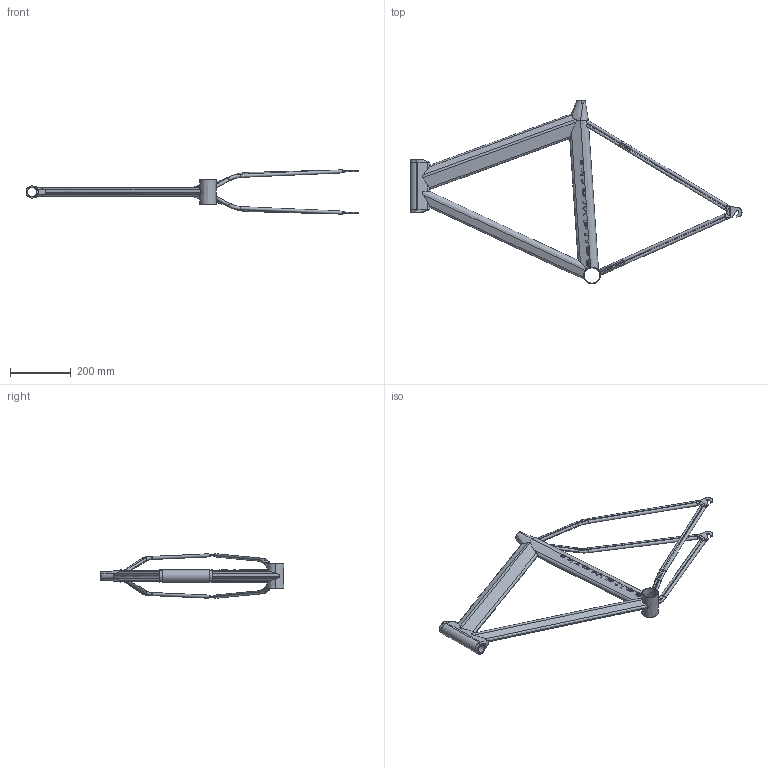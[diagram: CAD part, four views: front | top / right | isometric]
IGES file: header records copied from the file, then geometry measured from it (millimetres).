
Start section: SolidWorks IGES file using analytic representation for surfaces
Global section: file name: C:\Documents and Settings\Pc\Escritorio\Modelos 3D\Capítulo 1 (Estático)\PRACTICAS\OTROS\marco bici.IGS; native system: SolidWorks 2010; preprocessor: SolidWorks 2010; author: Pc; date: 100623.112350; units: millimetre
Bounding box: 1089.27 x 601.75 x 144.99 mm (x, y, z)
Surface area: 431426.2 mm2 (no closed solid volume)
Topology: 0 solids, 0 shells, 326 faces, 5281 edges, 5281 vertices
Faces by surface type: bspline 247, revolution 79
